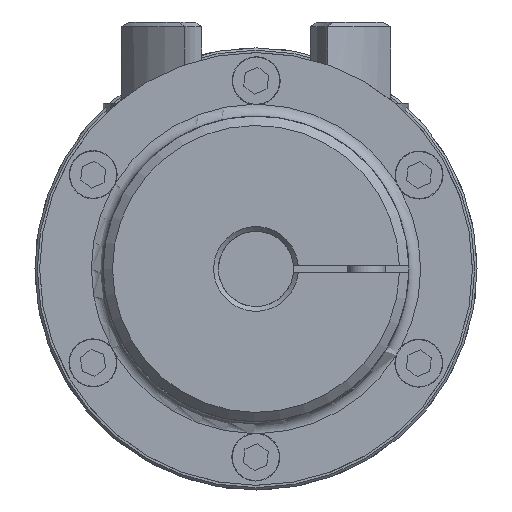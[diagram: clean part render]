
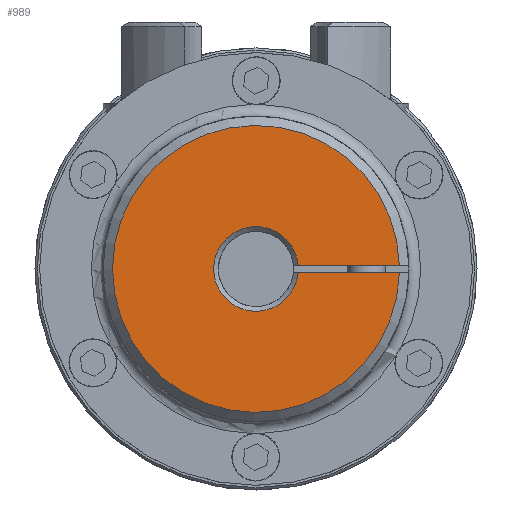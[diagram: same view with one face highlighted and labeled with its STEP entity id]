
A CAD part, left-side view. The second image highlights one B-rep face of the part: STEP entity #989.
In plain terms, the highlighted planar face has unit normal (-1, 0, 0) as drawn and (0, 0, -1) by its records, which use the part's own axes.
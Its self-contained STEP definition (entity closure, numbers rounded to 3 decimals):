
#989 = ADVANCED_FACE( '', ( #2084 ), #2085, .T. );
#2084 = FACE_OUTER_BOUND( '', #3170, .T. );
#2085 = PLANE( '', #3171 );
#3170 = EDGE_LOOP( '', ( #5800, #5801, #5802, #5803 ) );
#3171 = AXIS2_PLACEMENT_3D( '', #5804, #5805, #5806 );
#5800 = ORIENTED_EDGE( '', *, *, #6941, .F. );
#5801 = ORIENTED_EDGE( '', *, *, #6942, .T. );
#5802 = ORIENTED_EDGE( '', *, *, #6943, .T. );
#5803 = ORIENTED_EDGE( '', *, *, #6923, .T. );
#5804 = CARTESIAN_POINT( '', ( 0., 0., 0. ) );
#5805 = DIRECTION( '', ( 0., 0., -1. ) );
#5806 = DIRECTION( '', ( 0., -1., 0. ) );
#6923 = EDGE_CURVE( '', #8258, #8262, #8264, .F. );
#6941 = EDGE_CURVE( '', #8290, #8262, #8291, .T. );
#6942 = EDGE_CURVE( '', #8290, #8292, #8293, .T. );
#6943 = EDGE_CURVE( '', #8292, #8258, #8294, .F. );
#8258 = VERTEX_POINT( '', #10701 );
#8262 = VERTEX_POINT( '', #10708 );
#8264 = CIRCLE( '', #10713, 9. );
#8290 = VERTEX_POINT( '', #10773 );
#8291 = LINE( '', #10774, #10775 );
#8292 = VERTEX_POINT( '', #10776 );
#8293 = CIRCLE( '', #10777, 30.5 );
#8294 = LINE( '', #10778, #10779 );
#10701 = CARTESIAN_POINT( '', ( -8.969, -0.75, 0. ) );
#10708 = CARTESIAN_POINT( '', ( -8.969, 0.75, 0. ) );
#10713 = AXIS2_PLACEMENT_3D( '', #12417, #12418, #12419 );
#10773 = CARTESIAN_POINT( '', ( -30.491, 0.75, 0. ) );
#10774 = CARTESIAN_POINT( '', ( -32.5, 0.75, 0. ) );
#10775 = VECTOR( '', #12455, 1000. );
#10776 = CARTESIAN_POINT( '', ( -30.491, -0.75, 0. ) );
#10777 = AXIS2_PLACEMENT_3D( '', #12456, #12457, #12458 );
#10778 = CARTESIAN_POINT( '', ( 0., -0.75, 0. ) );
#10779 = VECTOR( '', #12459, 1000. );
#12417 = CARTESIAN_POINT( '', ( 0., 0., 0. ) );
#12418 = DIRECTION( '', ( 0., 0., -1. ) );
#12419 = DIRECTION( '', ( -1., 0., 0. ) );
#12455 = DIRECTION( '', ( 1., 0., 0. ) );
#12456 = CARTESIAN_POINT( '', ( 0., 0., 0. ) );
#12457 = DIRECTION( '', ( 0., 0., -1. ) );
#12458 = DIRECTION( '', ( -1., 0., 0. ) );
#12459 = DIRECTION( '', ( -1., 0., 0. ) );
